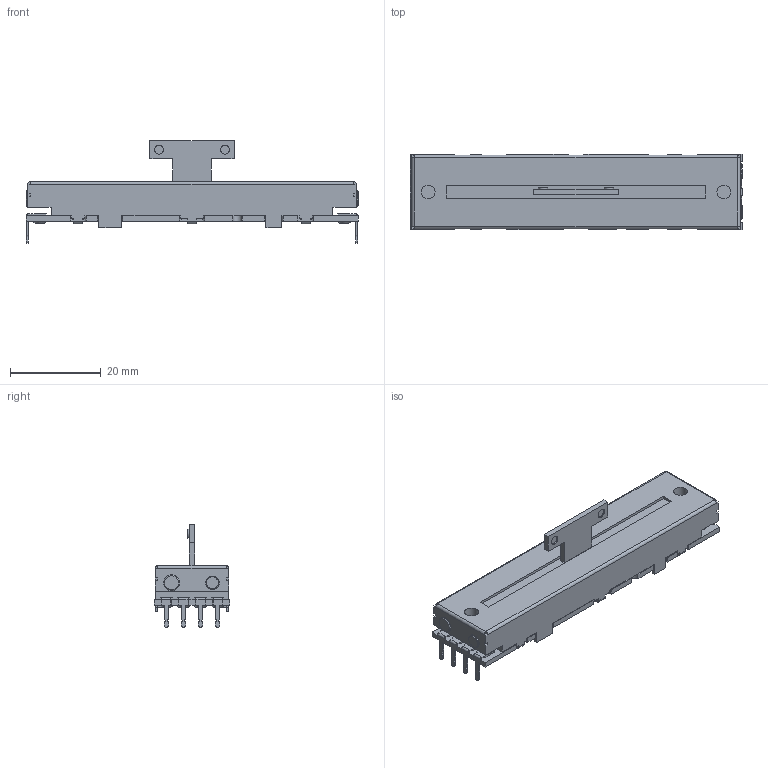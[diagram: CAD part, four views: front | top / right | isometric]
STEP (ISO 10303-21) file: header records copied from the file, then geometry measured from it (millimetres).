
FILE_DESCRIPTION(('FreeCAD Model'),'2;1');
FILE_NAME('Open CASCADE Shape Model','2023-03-16T15:33:30',(''),(''), 'Open CASCADE STEP processor 7.6','FreeCAD','Unknown');
FILE_SCHEMA(('AUTOMOTIVE_DESIGN { 1 0 10303 214 1 1 1 1 }'));
Length unit declared in the file: millimetre
Products named in the file (1): Fusion002006
Bounding box: 73 x 16.5 x 22.6 mm (x, y, z)
Volume: 9977.2 mm3; surface area: 4986.8 mm2
Topology: 1 solids, 7 shells, 561 faces, 1493 edges, 958 vertices
Faces by surface type: plane 384, cylinder 161, cone 10, torus 6
Full cylindrical faces by diameter (mm): 0.5 x18, 1.5 x6, 1.7 x8, 2 x4, 3 x4, 3.5 x2
Entity records: 38543 total; most frequent: CARTESIAN_POINT 8092, DIRECTION 4712, ORIENTED_EDGE 2986, PCURVE 2986, DEFINITIONAL_REPRESENTATION 2986, LINE 2702, VECTOR 2702, EDGE_CURVE 1493
